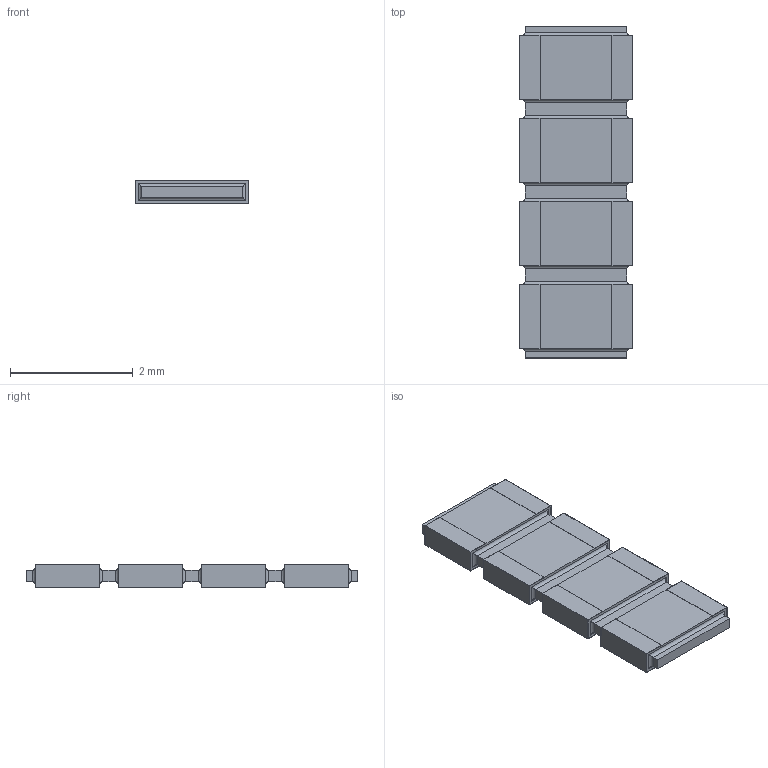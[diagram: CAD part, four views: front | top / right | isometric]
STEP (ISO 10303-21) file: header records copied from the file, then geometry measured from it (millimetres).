
FILE_DESCRIPTION(/* description */ (''),/* implementation_level */ '2;1');
FILE_NAME(/* name */ 'S:\DOCUMENT\AUTOCAD\3D_Modèles\10_3D-pour-VISHAY-COM\PRA\PRAHR135I4_B.stp',/* time_stamp */ '2018-02-02T10:49:56+01:00',/* author */ ('dparmentier'),/* organization */ ('unknown'),/* preprocessor_version */ 'ST-DEVELOPER v17',/* originating_system */ 'Autodesk Inventor 2018',/* authorisation */ '');
FILE_SCHEMA (('AUTOMOTIVE_DESIGN { 1 0 10303 214 3 1 1 }'));
Length unit declared in the file: millimetre
Products named in the file (1): PRAHR135I4_B
Bounding box: 1.85 x 5.4 x 0.38 mm (x, y, z)
Volume: 3.3 mm3; surface area: 43.8 mm2
Topology: 9 solids, 9 shells, 158 faces, 364 edges, 232 vertices
Faces by surface type: plane 126, cylinder 32
Entity records: 4409 total; most frequent: CARTESIAN_POINT 755, ORIENTED_EDGE 728, DIRECTION 714, EDGE_CURVE 364, LINE 332, VECTOR 332, VERTEX_POINT 232, AXIS2_PLACEMENT_3D 191
